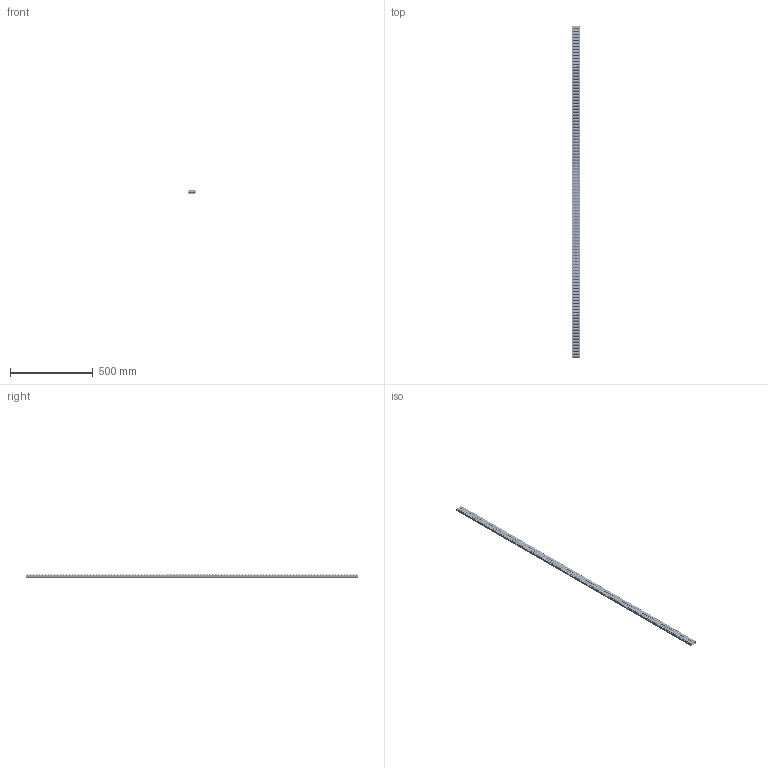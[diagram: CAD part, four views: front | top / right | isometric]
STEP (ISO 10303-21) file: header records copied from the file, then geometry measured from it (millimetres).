
FILE_DESCRIPTION( ( 'Unknown' ), '1' );
FILE_NAME( 'D:/Construktor/Listwy rolkowe 2015/Listwa T50B/Listwa T50B.stp', 'Unknown', ( 'Unknown' ), ( 'Unknown' ), 'PSStep 17.0.49', 'Unknown', ' ' );
FILE_SCHEMA( ( 'AUTOMOTIVE_DESIGN { 1 0 10303 214 1 1 1 1 }' ) );
Length unit declared in the file: millimetre
Products named in the file (10): Assem1; Ceownik T50B; Rolka T 50B; Rolka T 50B-oa0; Rolka T 50B-oa1; Rolka T 50B-oa2; Rolka T 50B-oa3; Nit.; Nit.-oa4; Nit.-oa5
Assembly tree (334 placements, depth 2):
  Assem1
    Ceownik T50B
    Rolka T 50B  x218
    Rolka T 50B-oa0
    Rolka T 50B-oa1
    Rolka T 50B-oa2
    Rolka T 50B-oa3
    Nit.  x109
    Nit.-oa4
    Nit.-oa5
Bounding box: 45.2 x 2000 x 19.82 mm (x, y, z)
Volume: 875065.6 mm3; surface area: 902515 mm2
Topology: 334 solids, 334 shells, 14679 faces, 39715 edges, 26370 vertices
Faces by surface type: plane 11998, cylinder 1793, torus 666, bspline 222
Full cylindrical faces by diameter (mm): 2 x111, 4 x111, 4.2 x235, 4.3 x222, 5.8 x111, 6 x111, 8 x444, 12.3 x444
Entity records: 25781 total; most frequent: DIRECTION 3916, CARTESIAN_POINT 3403, ORIENTED_EDGE 2606, AXIS2_PLACEMENT_3D 1704, EDGE_LOOP 1368, EDGE_CURVE 1303, VERTEX_POINT 1051, FACE_OUTER_BOUND 872
